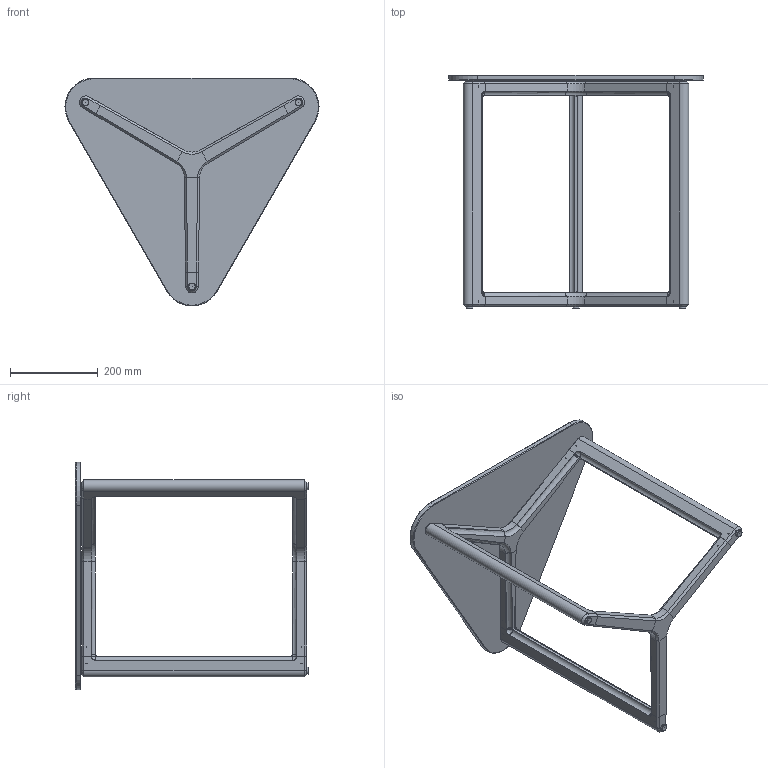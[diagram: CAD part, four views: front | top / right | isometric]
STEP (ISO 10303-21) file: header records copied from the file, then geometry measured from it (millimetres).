
FILE_DESCRIPTION(/* description */ ('SPANNER, SIDE TABLE, 24''''X 22''''H'),/* implementation_level */ '2;1');
FILE_NAME(/* name */ '1151-TRIANGLE-GL.stp',/* time_stamp */ '2024-02-20T13:43:46-05:00',/* author */ ('aunderhill'),/* organization */ (''),/* preprocessor_version */ 'ST-DEVELOPER v19.2',/* originating_system */ 'Autodesk Inventor 2023',/* authorisation */ '');
FILE_SCHEMA (('AUTOMOTIVE_DESIGN { 1 0 10303 214 3 1 1 }'));
Length unit declared in the file: inch
Products named in the file (9): 1151-TRIANGLE-GL; 1151-001; 1150-002; 1151-003; 1150-004; 97506; FA058; GL01-032; HD01-179
Assembly tree (43 placements, depth 3):
  1151-TRIANGLE-GL
    1151-001
      1150-002  x2
      1151-003  x6
      1150-004  x3
      97506  x3
      FA058  x24
    GL01-032
    HD01-179  x3
Bounding box: 580.83 x 533.4 x 520.7 mm (x, y, z)
Volume: 5397417.8 mm3; surface area: 860398.2 mm2
Topology: 42 solids, 42 shells, 462 faces, 879 edges, 552 vertices
Faces by surface type: plane 222, cylinder 111, cone 69, bspline 51, torus 9
Full cylindrical faces by diameter (mm): 1.575 x3, 9.728 x72, 15.875 x3
Entity records: 4081 total; most frequent: CARTESIAN_POINT 991, DIRECTION 624, ORIENTED_EDGE 478, AXIS2_PLACEMENT_3D 248, EDGE_CURVE 239, VERTEX_POINT 151, EDGE_LOOP 132, LINE 128
